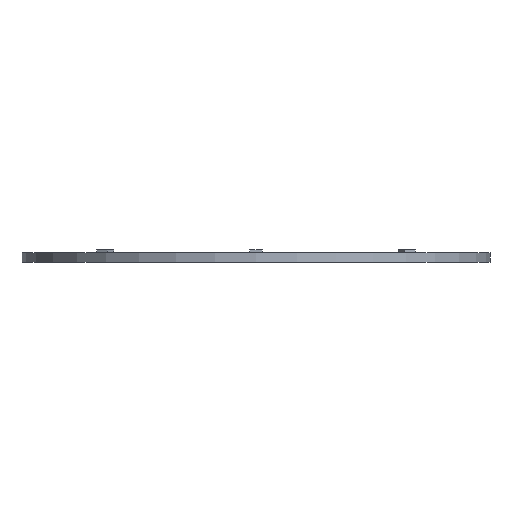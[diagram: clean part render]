
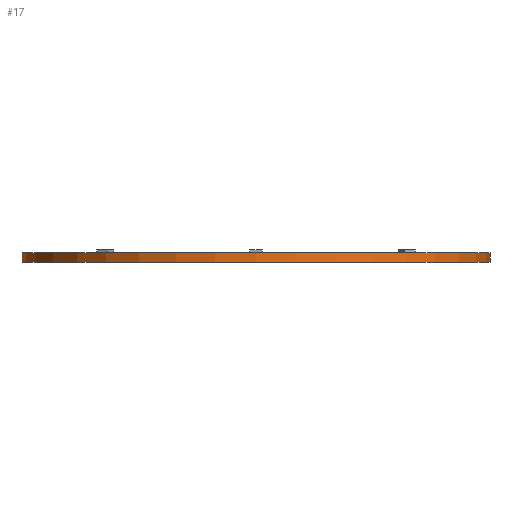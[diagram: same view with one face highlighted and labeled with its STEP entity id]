
A CAD part, front view. The second image highlights one B-rep face of the part: STEP entity #17.
In plain terms, the highlighted cylindrical face has radius 470 mm (diameter 940 mm), a full revolution.
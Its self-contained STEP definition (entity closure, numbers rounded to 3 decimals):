
#17 = ADVANCED_FACE('',(#18),#32,.T.);
#18 = FACE_BOUND('',#19,.F.);
#19 = EDGE_LOOP('',(#20,#50,#77,#78));
#20 = ORIENTED_EDGE('',*,*,#21,.T.);
#21 = EDGE_CURVE('',#22,#24,#26,.T.);
#22 = VERTEX_POINT('',#23);
#23 = CARTESIAN_POINT('',(470.,0.,-470.));
#24 = VERTEX_POINT('',#25);
#25 = CARTESIAN_POINT('',(470.,0.,-450.));
#26 = SEAM_CURVE('',#27,(#31,#43),.PCURVE_S1.);
#27 = LINE('',#28,#29);
#28 = CARTESIAN_POINT('',(470.,0.,-470.));
#29 = VECTOR('',#30,1.);
#30 = DIRECTION('',(0.,0.,1.));
#31 = PCURVE('',#32,#37);
#32 = CYLINDRICAL_SURFACE('',#33,470.);
#33 = AXIS2_PLACEMENT_3D('',#34,#35,#36);
#34 = CARTESIAN_POINT('',(0.,0.,-470.));
#35 = DIRECTION('',(-0.,-0.,-1.));
#36 = DIRECTION('',(1.,0.,0.));
#37 = DEFINITIONAL_REPRESENTATION('',(#38),#42);
#38 = LINE('',#39,#40);
#39 = CARTESIAN_POINT('',(-0.,0.));
#40 = VECTOR('',#41,1.);
#41 = DIRECTION('',(-0.,-1.));
#42 = ( GEOMETRIC_REPRESENTATION_CONTEXT(2) 
PARAMETRIC_REPRESENTATION_CONTEXT() REPRESENTATION_CONTEXT('2D SPACE',''
  ) );
#43 = PCURVE('',#32,#44);
#44 = DEFINITIONAL_REPRESENTATION('',(#45),#49);
#45 = LINE('',#46,#47);
#46 = CARTESIAN_POINT('',(-6.283,0.));
#47 = VECTOR('',#48,1.);
#48 = DIRECTION('',(-0.,-1.));
#49 = ( GEOMETRIC_REPRESENTATION_CONTEXT(2) 
PARAMETRIC_REPRESENTATION_CONTEXT() REPRESENTATION_CONTEXT('2D SPACE',''
  ) );
#50 = ORIENTED_EDGE('',*,*,#51,.T.);
#51 = EDGE_CURVE('',#24,#24,#52,.T.);
#52 = SURFACE_CURVE('',#53,(#58,#65),.PCURVE_S1.);
#53 = CIRCLE('',#54,470.);
#54 = AXIS2_PLACEMENT_3D('',#55,#56,#57);
#55 = CARTESIAN_POINT('',(0.,0.,-450.));
#56 = DIRECTION('',(0.,0.,1.));
#57 = DIRECTION('',(1.,0.,0.));
#58 = PCURVE('',#32,#59);
#59 = DEFINITIONAL_REPRESENTATION('',(#60),#64);
#60 = LINE('',#61,#62);
#61 = CARTESIAN_POINT('',(-0.,-20.));
#62 = VECTOR('',#63,1.);
#63 = DIRECTION('',(-1.,0.));
#64 = ( GEOMETRIC_REPRESENTATION_CONTEXT(2) 
PARAMETRIC_REPRESENTATION_CONTEXT() REPRESENTATION_CONTEXT('2D SPACE',''
  ) );
#65 = PCURVE('',#66,#71);
#66 = PLANE('',#67);
#67 = AXIS2_PLACEMENT_3D('',#68,#69,#70);
#68 = CARTESIAN_POINT('',(0.,0.,-450.)
  );
#69 = DIRECTION('',(0.,0.,1.));
#70 = DIRECTION('',(1.,0.,-0.));
#71 = DEFINITIONAL_REPRESENTATION('',(#72),#76);
#72 = CIRCLE('',#73,470.);
#73 = AXIS2_PLACEMENT_2D('',#74,#75);
#74 = CARTESIAN_POINT('',(0.,0.));
#75 = DIRECTION('',(1.,0.));
#76 = ( GEOMETRIC_REPRESENTATION_CONTEXT(2) 
PARAMETRIC_REPRESENTATION_CONTEXT() REPRESENTATION_CONTEXT('2D SPACE',''
  ) );
#77 = ORIENTED_EDGE('',*,*,#21,.F.);
#78 = ORIENTED_EDGE('',*,*,#79,.F.);
#79 = EDGE_CURVE('',#22,#22,#80,.T.);
#80 = SURFACE_CURVE('',#81,(#86,#93),.PCURVE_S1.);
#81 = CIRCLE('',#82,470.);
#82 = AXIS2_PLACEMENT_3D('',#83,#84,#85);
#83 = CARTESIAN_POINT('',(0.,0.,-470.));
#84 = DIRECTION('',(0.,0.,1.));
#85 = DIRECTION('',(1.,0.,0.));
#86 = PCURVE('',#32,#87);
#87 = DEFINITIONAL_REPRESENTATION('',(#88),#92);
#88 = LINE('',#89,#90);
#89 = CARTESIAN_POINT('',(-0.,0.));
#90 = VECTOR('',#91,1.);
#91 = DIRECTION('',(-1.,0.));
#92 = ( GEOMETRIC_REPRESENTATION_CONTEXT(2) 
PARAMETRIC_REPRESENTATION_CONTEXT() REPRESENTATION_CONTEXT('2D SPACE',''
  ) );
#93 = PCURVE('',#94,#99);
#94 = PLANE('',#95);
#95 = AXIS2_PLACEMENT_3D('',#96,#97,#98);
#96 = CARTESIAN_POINT('',(0.,0.,-470.)
  );
#97 = DIRECTION('',(0.,0.,1.));
#98 = DIRECTION('',(1.,0.,-0.));
#99 = DEFINITIONAL_REPRESENTATION('',(#100),#104);
#100 = CIRCLE('',#101,470.);
#101 = AXIS2_PLACEMENT_2D('',#102,#103);
#102 = CARTESIAN_POINT('',(0.,0.));
#103 = DIRECTION('',(1.,0.));
#104 = ( GEOMETRIC_REPRESENTATION_CONTEXT(2) 
PARAMETRIC_REPRESENTATION_CONTEXT() REPRESENTATION_CONTEXT('2D SPACE',''
  ) );
